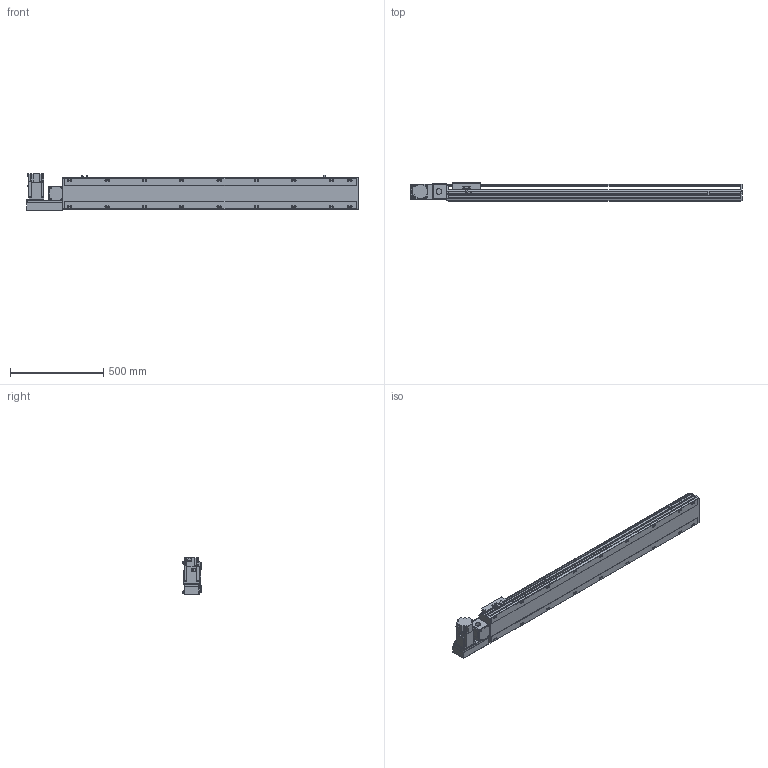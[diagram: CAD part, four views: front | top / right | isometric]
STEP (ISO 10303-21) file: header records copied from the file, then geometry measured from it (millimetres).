
FILE_DESCRIPTION( ( 'STEP AP214' ), '1' );
FILE_NAME( 'x:/temp/worker_3/temp/exporttempdir_5796_106_dNg6E/format_0/PBS170-P40-S1300-L-T75-C1-N(0).stp', '2022-06-07T06:55:39', ( 'License CC BY-ND 4.0' ), ( 'CADENAS' ), ' ', 'PARTsolutions', ' ' );
FILE_SCHEMA( ( 'AUTOMOTIVE_DESIGN { 1 0 10303 214 1 1 1 1 }' ) );
Length unit declared in the file: millimetre
Products named in the file (7): PBS170-P40-S1300-L-T75-C1-N(0); _PBS170-S1300()_body; _PBS170T-L_motors; _T75-p1; _PBS170_sliser; _PBS170_plant; _PBS170_sensor
Assembly tree (8 placements, depth 2):
  PBS170-P40-S1300-L-T75-C1-N(0)
    _PBS170-S1300()_body
    _PBS170T-L_motors
    _T75-p1
    _PBS170_sliser
    _PBS170_plant
    _PBS170_sensor  x3
Bounding box: 1778 x 97 x 197.3 mm (x, y, z)
Volume: 13126933.6 mm3; surface area: 1698494 mm2
Topology: 8 solids, 8 shells, 1098 faces, 2915 edges, 1900 vertices
Faces by surface type: plane 693, cylinder 347, cone 48, sphere 8, torus 2
Full cylindrical faces by diameter (mm): 3.242 x4, 4 x2, 4.4 x4, 4.5 x6, 4.917 x4, 6 x9, 6.647 x26, 7 x2, 7.5 x4, 8 x8, 8.5 x18, 10 x4, 10.5 x18, 11 x2, 30 x2, 40 x1, 70 x1
Entity records: 40382 total; most frequent: CARTESIAN_POINT 6389, DIRECTION 5370, ORIENTED_EDGE 5088, EDGE_CURVE 2544, AXIS2_PLACEMENT_3D 1867, VERTEX_POINT 1754, LINE 1636, VECTOR 1636
